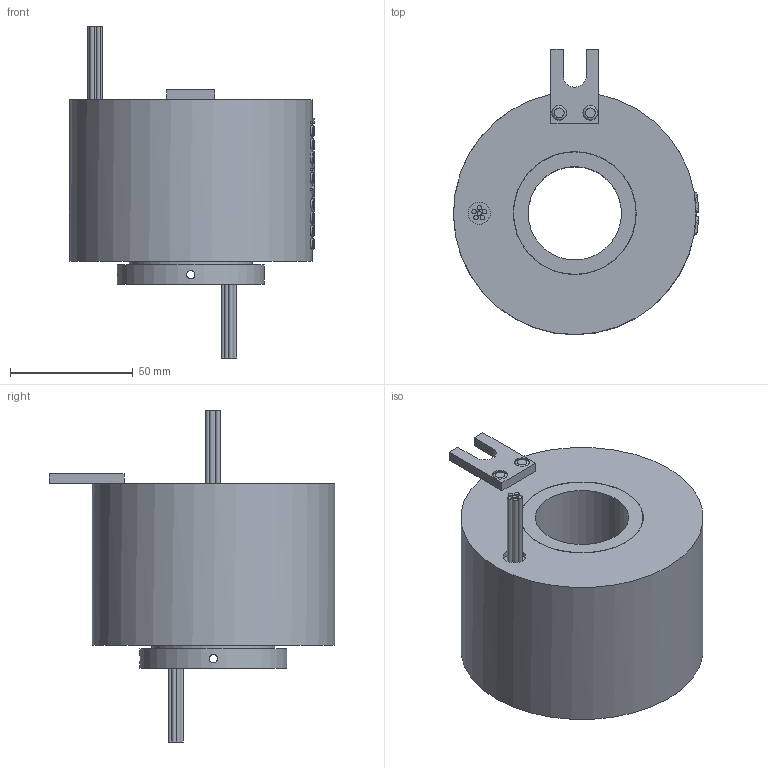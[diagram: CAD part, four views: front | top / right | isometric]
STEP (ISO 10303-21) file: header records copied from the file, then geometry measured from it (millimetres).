
FILE_DESCRIPTION(/* description */ (''),/* implementation_level */ '2;1');
FILE_NAME(/* name */ 'HDF3899-0610.stp',/* time_stamp */ '2024-07-15T10:18:11+08:00',/* author */ (''),/* organization */ (''),/* preprocessor_version */ 'ST-DEVELOPER v16.7',/* originating_system */ 'SIEMENS PLM Software NX 12.0',/* authorisation */ '');
FILE_SCHEMA (('AUTOMOTIVE_DESIGN { 1 0 10303 214 3 1 1 1 }'));
Length unit declared in the file: millimetre
Products named in the file (1): 8613555CFF69n5ky
Bounding box: 100 x 116.5 x 135.5 mm (x, y, z)
Volume: 449891.9 mm3; surface area: 52301.4 mm2
Topology: 1 solids, 1 shells, 379 faces, 952 edges, 633 vertices
Faces by surface type: extrusion 157, plane 152, cylinder 41, bspline 27, torus 2
Full cylindrical faces by diameter (mm): 1.8 x12, 3.4 x4, 6 x2, 9 x1, 38.1 x1, 50 x2, 50.18 x1, 50.2 x2, 60 x1, 99 x1
Entity records: 17133 total; most frequent: CARTESIAN_POINT 8873, ORIENTED_EDGE 1822, DIRECTION 1193, EDGE_CURVE 911, VERTEX_POINT 629, VECTOR 557, B_SPLINE_CURVE_WITH_KNOTS 546, EDGE_LOOP 484
